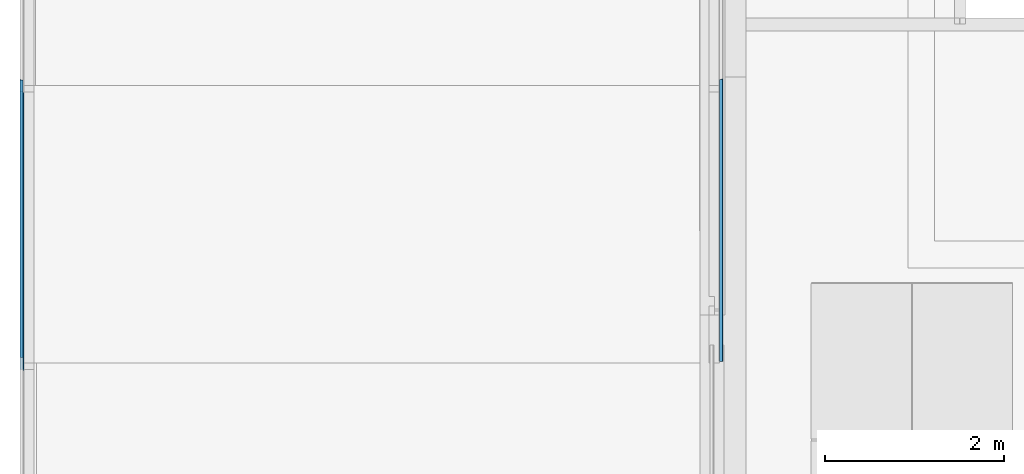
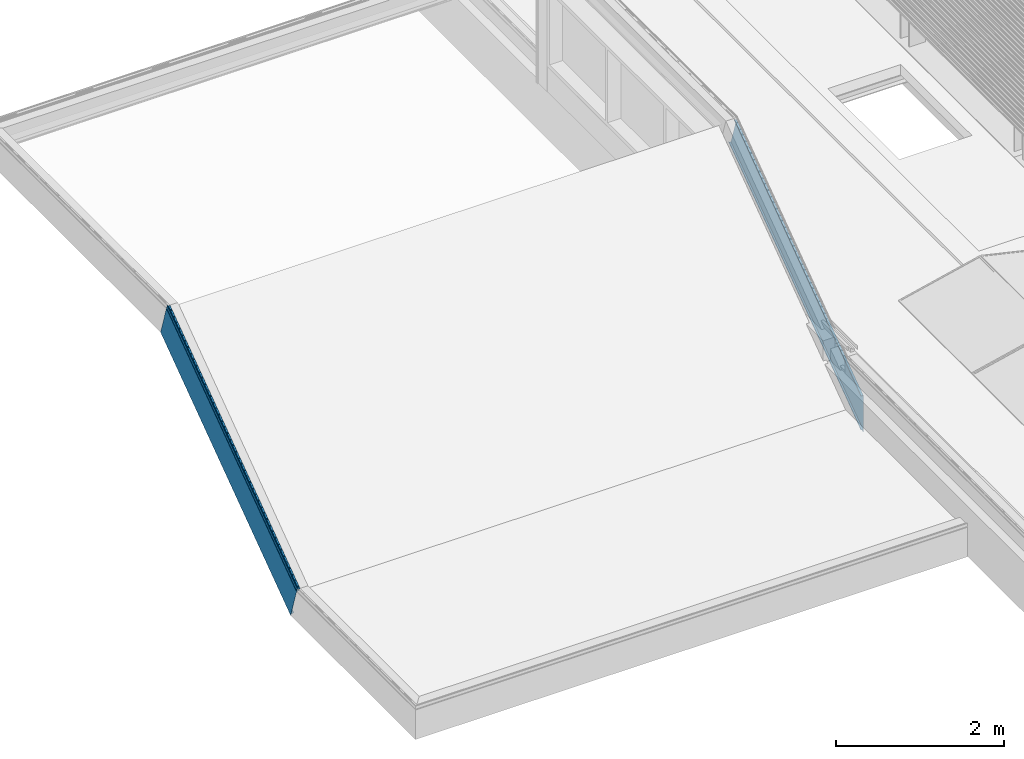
# One storey, part 19 of 63: 5 building element parts, 2 elements without a shape of their own.
"""IFC2X3 building model written with IfcOpenShell, lengths in millimetres."""

from ifc_helpers import new_model, entity, si_unit, converted_unit, derived_unit, money_unit, direction, frame, origin_with_axes, place, context, subcontext, project, spatial, faceted_brep, material, type_object, element, aggregate, save


model = new_model("IFC2X3")

# Units and contexts
model_context = context("Model", 3, precision=0.01, world=origin_with_axes(), true_north=direction((0.0, 1.0)))
body_context = subcontext(model_context, "Body", "Model", "MODEL_VIEW")
ifc_project = project(units=[si_unit("LENGTHUNIT", "METRE", prefix="MILLI"), si_unit("AREAUNIT", "SQUARE_METRE"), si_unit("VOLUMEUNIT", "CUBIC_METRE"), converted_unit("PLANEANGLEUNIT", "DEGREE", entity("IfcPlaneAngleMeasure", 0.0174532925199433), si_unit("PLANEANGLEUNIT", "RADIAN"), dimensions=[0, 0, 0, 0, 0, 0, 0]), money_unit("EUR"), converted_unit("TIMEUNIT", "Year", entity("IfcTimeMeasure", 31557600.0), si_unit("TIMEUNIT", "SECOND"), dimensions=[0, 0, 1, 0, 0, 0, 0]), si_unit("MASSUNIT", "GRAM", prefix="KILO"), si_unit("THERMODYNAMICTEMPERATUREUNIT", "DEGREE_CELSIUS"), si_unit("LUMINOUSINTENSITYUNIT", "LUMEN"), si_unit("ENERGYUNIT", "JOULE", prefix="MEGA"), derived_unit("THERMALCONDUCTANCEUNIT", [(si_unit("POWERUNIT", "WATT"), 1), (si_unit("LENGTHUNIT", "METRE"), -1), (si_unit("THERMODYNAMICTEMPERATUREUNIT", "KELVIN"), -1)]), derived_unit("SPECIFICHEATCAPACITYUNIT", [(si_unit("ENERGYUNIT", "JOULE"), 1), (si_unit("MASSUNIT", "GRAM", prefix="KILO"), -1), (si_unit("THERMODYNAMICTEMPERATUREUNIT", "KELVIN"), -1)]), derived_unit("MASSDENSITYUNIT", [(si_unit("MASSUNIT", "GRAM", prefix="KILO"), 1), (si_unit("VOLUMEUNIT", "CUBIC_METRE"), -1)])], contexts=[model_context])

# Site, building, storey
site_placement = place(None, origin_with_axes())
site = spatial("IfcSite", under=ifc_project, at=site_placement, Name="<site naam>", CompositionType="ELEMENT")
building_placement = place(site_placement, origin_with_axes())
building = spatial("IfcBuilding", under=site, at=building_placement, Name="<Naam gebouw>", CompositionType="ELEMENT")
storey_placement = place(building_placement, frame((0.0, 0.0, 12770.0), z_axis=(0.0, 0.0, 1.0), x_axis=(1.0, 0.0, 0.0)))
storey = spatial("IfcBuildingStorey", under=building, at=storey_placement, Name="04 4e verdieping", CompositionType="ELEMENT", Elevation=12770.0)

# Beam, building element parts
beam_type = type_object("IfcBeamType", Name="Aluminium daktrim (hoofdtrap) 45 x 485", PredefinedType="BEAM")
beam_1_placement = place(storey_placement, frame((3961.493419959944, 7908.050696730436, 1715.973082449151), z_axis=(0.0, 0.0, 1.0), x_axis=(-1.0, 0.0, 0.0)))
beam_1 = element("IfcBeam", 1, at=beam_1_placement, inside=storey, type_object=beam_type, Name="47_Balk_Aluminium", ObjectType="BEAM")
ifc_material = material(Name="aluminium")
building_element_part_1_placement = place(beam_1_placement, origin_with_axes())
building_element_part_1 = element("IfcBuildingElementPart", 2, at=building_element_part_1_placement, material=ifc_material, Name="aluminium", context=body_context, shape_type="Brep", body=[
    faceted_brep([(-145.0058874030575, 3178.416077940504, -1997.842919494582), (-111.1979101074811, 3177.004984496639, -2002.205240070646), (-111.1979101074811, 76.91150562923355, 237.7678423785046), (-145.0058874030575, 78.32259907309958, 242.1301629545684), (-145.0058874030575, 3181.953354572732, -1986.907616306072), (-143.805887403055, 3181.953354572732, -1986.907616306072), (-143.805887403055, 3178.835491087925, -1996.546325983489), (-110.0058874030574, 3177.424730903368, -2000.907616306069), (-110.0058874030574, 3038.331344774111, -2430.907445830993), (-115.2058874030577, 3038.331344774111, -2430.907445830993), (-115.2058874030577, 3043.992124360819, -2413.407445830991), (-114.0058874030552, 3043.992124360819, -2413.407445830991), (-114.0058874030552, 3038.719512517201, -2429.70744583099), (-111.1979101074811, 3038.719512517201, -2429.70744583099), (-111.1979101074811, -61.37396635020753, -189.734363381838), (-114.0058874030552, -61.37396635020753, -189.734363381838), (-114.0058874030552, -56.10135450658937, -173.4343633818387), (-115.2058874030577, -56.10135450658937, -173.4343633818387), (-115.2058874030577, -61.76213409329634, -190.9343633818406), (-110.0058874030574, -61.76213409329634, -190.9343633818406), (-110.0058874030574, 77.33125203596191, 239.0654661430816), (-143.805887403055, 78.7420122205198, 243.4267564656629), (-143.805887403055, 81.8598757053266, 253.0654661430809), (-145.0058874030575, 81.8598757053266, 253.0654661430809)], [[[0, 1, 2, 3]], [[0, 4, 5, 6, 7, 8, 9, 10, 11, 12, 13, 1]], [[1, 13, 14, 2]], [[3, 2, 14, 15, 16, 17, 18, 19, 20, 21, 22, 23]], [[4, 0, 3, 23]], [[5, 4, 23, 22]], [[6, 5, 22, 21]], [[7, 6, 21, 20]], [[8, 7, 20, 19]], [[9, 8, 19, 18]], [[10, 9, 18, 17]], [[11, 10, 17, 16]], [[12, 11, 16, 15]], [[13, 12, 15, 14]]]),
])
building_element_part_2_placement = place(beam_1_placement, origin_with_axes())
building_element_part_2 = element("IfcBuildingElementPart", 3, at=building_element_part_2_placement, material=ifc_material, Name="aluminium", context=body_context, shape_type="Brep", body=[
    faceted_brep([(-121.4991945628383, 3195.215810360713, -1945.907437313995), (-122.2068758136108, 3195.120881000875, -1946.200906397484), (-122.2068758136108, 95.02740213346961, 293.7721760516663), (-121.4991945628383, 95.1223314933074, 294.0656451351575), (-110.9991946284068, 3195.215810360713, -1945.907437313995), (-110.2920878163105, 3195.121067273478, -1946.20033054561), (-109.9991945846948, 3194.892337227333, -1946.907437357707), (-109.9991945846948, 3180.982993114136, -1989.907437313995), (-110.2920878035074, 3180.75426307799, -1990.614544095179), (-110.9991945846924, 3180.659519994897, -1990.907437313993), (-111.499173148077, 3180.702853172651, -1990.773475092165), (-117.6977781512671, 3181.860421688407, -1987.194913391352), (-117.977477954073, 3181.978316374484, -1986.830448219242), (-117.9175736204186, 3182.125657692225, -1986.374950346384), (-117.5531500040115, 3182.216150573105, -1986.095196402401), (-117.0976432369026, 3182.196795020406, -1986.155033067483), (-113.8976320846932, 3181.599613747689, -1988.001187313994), (-113.8976320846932, 3181.791675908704, -1987.40743732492), (-113.7511854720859, 3181.906040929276, -1987.053883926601), (-113.397632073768, 3181.953412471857, -1986.907437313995), (-113.1984133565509, 3181.953412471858, -1986.907437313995), (-112.8448599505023, 3181.90604092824, -1987.053883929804), (-112.698413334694, 3181.791675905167, -1987.407437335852), (-112.698413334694, 3181.375330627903, -1988.694546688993), (-111.948916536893, 3181.235168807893, -1989.127849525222), (-111.6116899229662, 3181.215880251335, -1989.187479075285), (-111.315064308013, 3181.271241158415, -1989.01633376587), (-111.1979101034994, 3181.375333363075, -1988.694538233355), (-111.1984133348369, 3191.010662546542, -1958.907428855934), (-111.3448629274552, 3191.125025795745, -1958.55388093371), (-111.6984133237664, 3191.172396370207, -1958.407437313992), (-112.1984133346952, 3191.172396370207, -1958.407437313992), (-112.5519667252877, 3191.125024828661, -1958.5538839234), (-112.698413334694, 3191.010659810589, -1958.907437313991), (-112.698413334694, 3190.525450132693, -1960.407437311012), (-112.8448599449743, 3190.411085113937, -1960.760990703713), (-113.1984133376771, 3190.363713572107, -1960.907437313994), (-114.9718508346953, 3190.363713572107, -1960.907437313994), (-120.1773366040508, 3189.289942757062, -1964.226942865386), (-120.311694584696, 3189.186069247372, -1964.548062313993), (-120.5695070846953, 3189.150689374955, -1964.657437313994), (-120.8898195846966, 3189.193650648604, -1964.524624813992), (-121.540195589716, 3189.11524669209, -1964.767006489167), (-121.6945070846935, 3189.015487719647, -1965.075406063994), (-121.9640383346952, 3188.986425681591, -1965.165249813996), (-122.2726320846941, 3189.036968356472, -1965.008999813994), (-128.1981216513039, 3188.746472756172, -1965.907051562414), (-154.6486035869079, 3188.746347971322, -1965.907437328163), (-154.8951277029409, 3188.779377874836, -1965.805327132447), (-154.9972414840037, 3188.859121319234, -1965.558804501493), (-154.894784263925, 3188.938976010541, -1965.311937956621), (-154.6476320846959, 3188.971894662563, -1965.210171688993), (-149.9991945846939, 3189.134263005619, -1964.708218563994), (-149.6984133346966, 3189.231557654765, -1964.407437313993), (-147.2999758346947, 3189.231557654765, -1964.407437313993), (-146.9991945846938, 3189.134263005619, -1964.708218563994), (-143.9991945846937, 3189.134263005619, -1964.708218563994), (-143.6984133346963, 3189.231557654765, -1964.407437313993), (-141.2999758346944, 3189.231557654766, -1964.407437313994), (-140.9991945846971, 3189.134263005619, -1964.708218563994), (-137.9991945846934, 3189.134263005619, -1964.708218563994), (-137.6984133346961, 3189.231557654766, -1964.407437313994), (-135.2999758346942, 3189.231557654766, -1964.407437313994), (-134.9991945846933, 3189.134263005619, -1964.708218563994), (-131.9991945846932, 3189.134263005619, -1964.708218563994), (-131.6984133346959, 3189.231557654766, -1964.407437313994), (-129.299975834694, 3189.231557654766, -1964.407437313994), (-128.9991945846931, 3189.134263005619, -1964.708218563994), (-128.1984107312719, 3189.134263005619, -1964.708218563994), (-120.0158638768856, 3189.740457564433, -1962.834200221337), (-113.4645529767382, 3191.438193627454, -1957.585739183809), (-112.6841977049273, 3191.560089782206, -1957.208903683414), (-112.1970030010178, 3191.560312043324, -1957.20821657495), (-111.4908083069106, 3191.655215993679, -1956.914826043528), (-111.1984133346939, 3191.883784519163, -1956.208218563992), (-111.1984133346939, 3194.666158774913, -1947.606656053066), (-111.3448599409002, 3194.780523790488, -1947.253102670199), (-111.6984133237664, 3194.827895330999, -1947.106656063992), (-120.799975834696, 3194.827895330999, -1947.106656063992), (-121.1535292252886, 3194.780523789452, -1947.253102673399), (-121.2999758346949, 3194.66615877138, -1947.606656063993), (-121.2999758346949, 3194.115875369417, -1949.307828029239), (-121.4748532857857, 3193.979229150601, -1949.730262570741), (-121.8971453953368, 3193.922549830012, -1949.905483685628), (-122.3197220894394, 3193.97900678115, -1949.730950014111), (-122.4952867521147, 3194.115560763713, -1949.308800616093), (-122.499191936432, 3194.891810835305, -1946.909064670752), (-122.499191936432, 94.79833196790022, 293.0640177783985), (-122.4952867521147, 94.02208189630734, 290.6642818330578), (-122.3197220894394, 93.88552791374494, 290.2421324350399), (-121.8971453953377, 93.82907096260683, 290.0675987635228), (-121.4748532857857, 93.88575028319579, 290.2428198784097), (-121.2999758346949, 94.0223965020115, 290.6652544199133), (-121.2999758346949, 94.57267990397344, 292.3664263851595), (-121.1535292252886, 94.68704492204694, 292.7199797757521), (-120.799975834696, 94.73441646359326, 292.8664263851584), (-111.6984133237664, 94.73441646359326, 292.8664263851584), (-111.3448599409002, 94.68704492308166, 292.7199797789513), (-111.1984133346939, 94.57267990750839, 292.3664263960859), (-111.1984133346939, 91.79030565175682, 283.7648638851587), (-111.4908083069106, 91.56173712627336, 283.0582564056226), (-112.1970030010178, 91.46683317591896, 282.764865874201), (-112.6841977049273, 91.46661091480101, 282.7641787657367), (-113.4645529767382, 91.34471476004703, 282.3873432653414), (-120.0158638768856, 89.64697869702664, 277.1388822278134), (-128.1984107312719, 89.0407841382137, 275.2648638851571), (-128.9991945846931, 89.0407841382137, 275.2648638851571), (-129.299975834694, 89.1380787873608, 275.565645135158), (-131.6984133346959, 89.13807878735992, 275.565645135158), (-131.9991945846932, 89.0407841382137, 275.2648638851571), (-134.9991945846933, 89.0407841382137, 275.2648638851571), (-135.2999758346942, 89.13807878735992, 275.565645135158), (-137.6984133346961, 89.13807878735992, 275.565645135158), (-137.9991945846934, 89.0407841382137, 275.2648638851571), (-140.9991945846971, 89.0407841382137, 275.2648638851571), (-141.2999758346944, 89.1380787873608, 275.565645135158), (-143.6984133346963, 89.1380787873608, 275.565645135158), (-143.9991945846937, 89.0407841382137, 275.2648638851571), (-146.9991945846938, 89.0407841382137, 275.2648638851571), (-147.2999758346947, 89.1380787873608, 275.565645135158), (-149.6984133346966, 89.1380787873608, 275.565645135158), (-149.9991945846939, 89.0407841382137, 275.2648638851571), (-154.6476320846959, 88.87841579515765, 274.7629107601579), (-154.894784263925, 88.84549714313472, 274.6611444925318), (-154.9972414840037, 88.76564245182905, 274.4142779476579), (-154.8951277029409, 88.68589900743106, 274.1677553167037), (-154.6486035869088, 88.65286910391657, 274.0656451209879), (-128.1981216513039, 88.65299388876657, 274.0660308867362), (-122.2726320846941, 88.94348948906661, 274.9640826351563), (-121.9640383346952, 88.89294681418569, 274.8078326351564), (-121.6945070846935, 88.92200885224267, 274.897676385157), (-121.540195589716, 89.02176782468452, 275.2060759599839), (-120.8898195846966, 89.10017178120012, 275.448457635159), (-120.5695070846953, 89.05721050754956, 275.3156451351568), (-120.311694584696, 89.09259037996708, 275.4250201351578), (-120.1773366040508, 89.19646388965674, 275.7461395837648), (-114.9718508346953, 90.2702347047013, 279.065645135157), (-113.1984133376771, 90.2702347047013, 279.065645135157), (-112.8448599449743, 90.31760624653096, 279.2120917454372), (-112.698413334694, 90.43197126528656, 279.5656451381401), (-112.698413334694, 90.91718094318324, 281.0656451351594), (-112.5519667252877, 91.03154596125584, 281.4191985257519), (-112.1984133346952, 91.07891750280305, 281.5656451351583), (-111.6984133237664, 91.07891750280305, 281.5656451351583), (-111.3448629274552, 91.03154692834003, 281.4192015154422), (-111.1984133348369, 90.91718367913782, 281.0656535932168), (-111.1979101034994, 81.2818544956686, 251.2785442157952), (-111.315064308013, 81.17776229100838, 250.9567486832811), (-111.6116899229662, 81.12240138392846, 250.7856033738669), (-111.948916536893, 81.14168994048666, 250.8452329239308), (-112.698413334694, 81.2818517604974, 251.278535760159), (-112.698413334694, 81.69819703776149, 252.5656451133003), (-112.8448599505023, 81.81256206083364, 252.9191985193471), (-113.1984133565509, 81.85993360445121, 253.0656451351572), (-113.397632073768, 81.85993360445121, 253.0656451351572), (-113.7511854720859, 81.81256206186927, 252.9191985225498), (-113.8976320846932, 81.69819704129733, 252.565645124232), (-113.8976320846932, 81.50613488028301, 251.9718951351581), (-117.0976432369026, 82.1033161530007, 253.8180493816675), (-117.5531500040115, 82.12267170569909, 253.8778860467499), (-117.9175736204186, 82.03217882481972, 253.5981321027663), (-117.977477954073, 81.88483750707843, 253.1426342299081), (-117.6977781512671, 81.76694282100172, 252.7781690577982), (-111.499173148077, 80.6093743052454, 249.1996073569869), (-110.9991945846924, 80.56604112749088, 249.0656451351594), (-110.2920878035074, 80.66078421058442, 249.3585383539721), (-109.9991945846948, 80.88951424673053, 250.0656451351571), (-109.9991945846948, 94.79885835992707, 293.0656450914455), (-110.2920878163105, 95.02758840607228, 293.7727519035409), (-110.9991946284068, 95.1223314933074, 294.0656451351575)], [[[0, 1, 2, 3]], [[0, 4, 5, 6, 7, 8, 9, 10, 11, 12, 13, 14, 15, 16, 17, 18, 19, 20, 21, 22, 23, 24, 25, 26, 27, 28, 29, 30, 31, 32, 33, 34, 35, 36, 37, 38, 39, 40, 41, 42, 43, 44, 45, 46, 47, 48, 49, 50, 51, 52, 53, 54, 55, 56, 57, 58, 59, 60, 61, 62, 63, 64, 65, 66, 67, 68, 69, 70, 71, 72, 73, 74, 75, 76, 77, 78, 79, 80, 81, 82, 83, 84, 85, 86, 1]], [[1, 86, 87, 2]], [[3, 2, 87, 88, 89, 90, 91, 92, 93, 94, 95, 96, 97, 98, 99, 100, 101, 102, 103, 104, 105, 106, 107, 108, 109, 110, 111, 112, 113, 114, 115, 116, 117, 118, 119, 120, 121, 122, 123, 124, 125, 126, 127, 128, 129, 130, 131, 132, 133, 134, 135, 136, 137, 138, 139, 140, 141, 142, 143, 144, 145, 146, 147, 148, 149, 150, 151, 152, 153, 154, 155, 156, 157, 158, 159, 160, 161, 162, 163, 164, 165, 166, 167, 168, 169]], [[4, 0, 3, 169]], [[5, 4, 169, 168]], [[6, 5, 168, 167]], [[7, 6, 167, 166]], [[8, 7, 166, 165]], [[9, 8, 165, 164]], [[10, 9, 164, 163]], [[11, 10, 163, 162]], [[12, 11, 162, 161]], [[13, 12, 161, 160]], [[14, 13, 160, 159]], [[15, 14, 159, 158]], [[16, 15, 158, 157]], [[17, 16, 157, 156]], [[18, 17, 156, 155]], [[19, 18, 155, 154]], [[20, 19, 154, 153]], [[21, 20, 153, 152]], [[22, 21, 152, 151]], [[23, 22, 151, 150]], [[24, 23, 150, 149]], [[25, 24, 149, 148]], [[26, 25, 148, 147]], [[27, 26, 147, 146]], [[28, 27, 146, 145]], [[29, 28, 145, 144]], [[30, 29, 144, 143]], [[31, 30, 143, 142]], [[32, 31, 142, 141]], [[33, 32, 141, 140]], [[34, 33, 140, 139]], [[35, 34, 139, 138]], [[36, 35, 138, 137]], [[37, 36, 137, 136]], [[38, 37, 136, 135]], [[39, 38, 135, 134]], [[40, 39, 134, 133]], [[41, 40, 133, 132]], [[42, 41, 132, 131]], [[43, 42, 131, 130]], [[44, 43, 130, 129]], [[45, 44, 129, 128]], [[46, 45, 128, 127]], [[47, 46, 127, 126]], [[48, 47, 126, 125]], [[49, 48, 125, 124]], [[50, 49, 124, 123]], [[51, 50, 123, 122]], [[52, 51, 122, 121]], [[53, 52, 121, 120]], [[54, 53, 120, 119]], [[55, 54, 119, 118]], [[56, 55, 118, 117]], [[57, 56, 117, 116]], [[58, 57, 116, 115]], [[59, 58, 115, 114]], [[60, 59, 114, 113]], [[61, 60, 113, 112]], [[62, 61, 112, 111]], [[63, 62, 111, 110]], [[64, 63, 110, 109]], [[65, 64, 109, 108]], [[66, 65, 108, 107]], [[67, 66, 107, 106]], [[68, 67, 106, 105]], [[69, 68, 105, 104]], [[70, 69, 104, 103]], [[71, 70, 103, 102]], [[72, 71, 102, 101]], [[73, 72, 101, 100]], [[74, 73, 100, 99]], [[75, 74, 99, 98]], [[76, 75, 98, 97]], [[77, 76, 97, 96]], [[78, 77, 96, 95]], [[79, 78, 95, 94]], [[80, 79, 94, 93]], [[81, 80, 93, 92]], [[82, 81, 92, 91]], [[83, 82, 91, 90]], [[84, 83, 90, 89]], [[85, 84, 89, 88]], [[86, 85, 88, 87]]]),
])
building_element_part_3_placement = place(beam_1_placement, origin_with_axes())
building_element_part_3 = element("IfcBuildingElementPart", 4, at=building_element_part_3_placement, material=ifc_material, Name="aluminium", context=body_context, shape_type="Brep", body=[
    faceted_brep([(-112.00589397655, 3040.11044490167, -2425.407452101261), (-112.00589397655, 3046.579912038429, -2405.407437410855), (-112.00589397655, -53.51356682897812, -165.4343549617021), (-112.00589397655, -59.98303396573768, -185.4343696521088), (-113.2058874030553, 3040.11044490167, -2425.407452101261), (-113.2058874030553, 3046.254200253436, -2406.414358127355), (-145.0058874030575, 3048.067978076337, -2400.807160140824), (-145.0058874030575, 3053.049374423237, -2385.407437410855), (-143.805887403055, 3053.049374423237, -2385.407437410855), (-143.805887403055, 3048.393689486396, -2399.800240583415), (-143.805887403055, -51.69978938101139, -159.827158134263), (-143.805887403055, -47.04410444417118, -145.4343549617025), (-145.0058874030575, -47.04410444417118, -145.4343549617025), (-145.0058874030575, -52.02550079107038, -160.8340776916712), (-113.2058874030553, -53.83927861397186, -166.441275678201), (-113.2058874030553, -59.98303396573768, -185.4343696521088)], [[[0, 1, 2, 3]], [[0, 4, 5, 6, 7, 8, 9, 1]], [[1, 9, 10, 2]], [[3, 2, 10, 11, 12, 13, 14, 15]], [[4, 0, 3, 15]], [[5, 4, 15, 14]], [[6, 5, 14, 13]], [[7, 6, 13, 12]], [[8, 7, 12, 11]], [[9, 8, 11, 10]]]),
])
aggregate(beam_1, [building_element_part_1, building_element_part_2, building_element_part_3])

beam_2_placement = place(storey_placement, frame((12028.4133810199, 7930.472148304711, 1726.973082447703), z_axis=(0.0, 0.0, 1.0), x_axis=(-1.0, 0.0, 0.0)))
beam_2 = element("IfcBeam", 5, at=beam_2_placement, inside=storey, type_object=beam_type, Name="47_Balk_Aluminium", ObjectType="BEAM")
building_element_part_4_placement = place(beam_2_placement, origin_with_axes())
building_element_part_4 = element("IfcBuildingElementPart", 6, at=building_element_part_4_placement, material=ifc_material, Name="aluminium", context=body_context, shape_type="Brep", body=[
    faceted_brep([(145.0058874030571, 3115.354588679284, -1938.786666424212), (143.8058874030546, 3115.354588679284, -1938.786666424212), (143.8058874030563, 97.08372643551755, 242.0654701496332), (145.0058874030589, 97.08372614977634, 242.0654703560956), (145.0058874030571, 3115.354588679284, -1952.277829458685), (111.1979101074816, 3115.354588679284, -1957.65973584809), (111.1979101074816, 3115.354588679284, -2485.080133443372), (114.0058874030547, 3115.354588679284, -2485.080133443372), (114.0058874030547, 3115.354588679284, -2464.970406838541), (115.2058874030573, 3115.354588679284, -2464.970406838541), (115.2058874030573, 3115.354588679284, -2486.56060411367), (110.0058874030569, 3115.354588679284, -2486.56060411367), (110.0058874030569, 3115.354588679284, -1956.058824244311), (143.8058874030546, 3115.354588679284, -1950.678188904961), (143.8058874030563, 93.96586289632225, 232.4267605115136), (110.0058874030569, 92.55511073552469, 228.0654643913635), (110.0058874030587, -46.53827782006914, -201.9343633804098), (115.2058874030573, -46.53827905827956, -201.9343624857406), (115.2058874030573, -40.87749937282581, -184.4343625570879), (114.0058874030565, -40.8774990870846, -184.4343627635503), (114.0058874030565, -46.15011102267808, -200.7343626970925), (111.1979101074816, -46.15011035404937, -200.7343631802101), (111.1979101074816, 92.13536403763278, 226.7678408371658), (145.0058874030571, 93.5464494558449, 231.1301672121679)], [[[0, 1, 2, 3]], [[0, 4, 5, 6, 7, 8, 9, 10, 11, 12, 13, 1]], [[1, 13, 14, 2]], [[3, 2, 14, 15, 16, 17, 18, 19, 20, 21, 22, 23]], [[4, 0, 3, 23]], [[5, 4, 23, 22]], [[6, 5, 22, 21]], [[7, 6, 21, 20]], [[8, 7, 20, 19]], [[9, 8, 19, 18]], [[10, 9, 18, 17]], [[11, 10, 17, 16]], [[12, 11, 16, 15]], [[13, 12, 15, 14]]]),
])
building_element_part_5_placement = place(beam_2_placement, origin_with_axes())
building_element_part_5 = element("IfcBuildingElementPart", 7, at=building_element_part_5_placement, material=ifc_material, Name="aluminium", context=body_context, shape_type="Brep", body=[
    faceted_brep([(113.2058874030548, 3115.354588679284, -2479.775121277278), (113.2058874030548, 3115.354588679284, -2456.342855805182), (113.2058874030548, -38.61542296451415, -177.4412752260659), (113.2058874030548, -44.75917842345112, -196.4343691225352), (112.0058939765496, 3115.354588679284, -2479.775121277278), (112.0058939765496, 3115.354588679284, -2455.100591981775), (143.8058874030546, 3115.354588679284, -2448.18284994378), (143.8058874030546, 3115.354588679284, -2430.426080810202), (145.0058874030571, 3115.354588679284, -2430.426080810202), (145.0058874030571, 3115.354588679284, -2449.425112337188), (145.0058874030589, -36.801652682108, -171.8340717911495), (145.0058874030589, -31.82025624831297, -156.4343491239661), (143.8058874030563, -31.82025596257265, -156.4343493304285), (143.8058874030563, -36.47594098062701, -170.827152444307), (112.0058939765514, -38.28971088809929, -176.4343547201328), (112.0058939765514, -44.75917813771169, -196.4343693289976)], [[[0, 1, 2, 3]], [[0, 4, 5, 6, 7, 8, 9, 1]], [[1, 9, 10, 2]], [[3, 2, 10, 11, 12, 13, 14, 15]], [[4, 0, 3, 15]], [[5, 4, 15, 14]], [[6, 5, 14, 13]], [[7, 6, 13, 12]], [[8, 7, 12, 11]], [[9, 8, 11, 10]]]),
])
aggregate(beam_2, [building_element_part_4, building_element_part_5])

save(model, "model.ifc")
